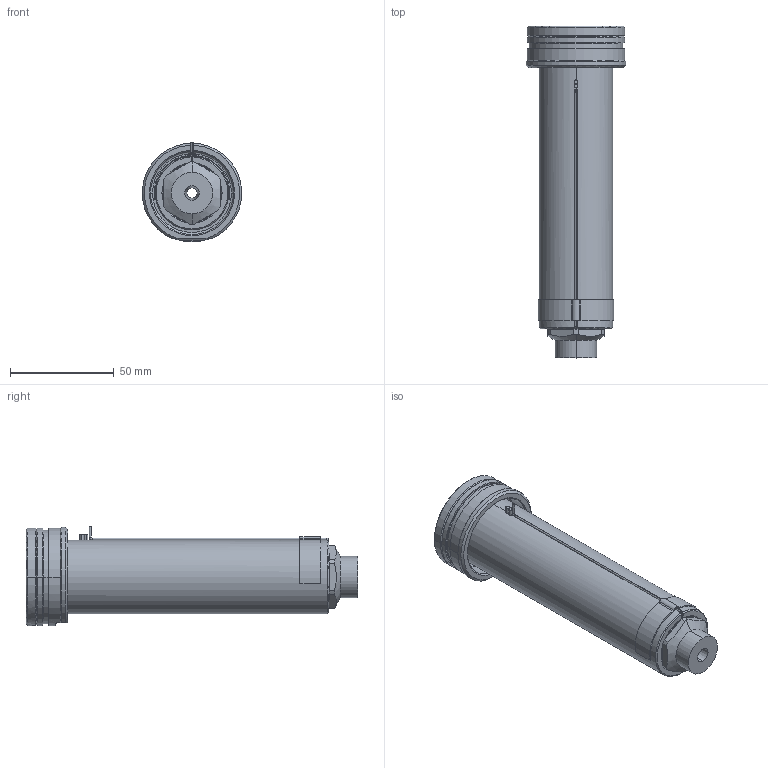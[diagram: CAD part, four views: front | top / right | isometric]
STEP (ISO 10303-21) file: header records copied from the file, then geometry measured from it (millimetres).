
FILE_DESCRIPTION((''),'2;1');
FILE_NAME('EO16_VG-ST_STD_140_SW','2024-02-19T12:55:38',('sundharh'),(''),'CREO PARAMETRIC BY PTC INC, 2023154','CREO PARAMETRIC BY PTC INC, 2023154','');
FILE_SCHEMA(('CONFIG_CONTROL_DESIGN'));
Length unit declared in the file: millimetre
Products named in the file (1): EO16_VG-ST_STD_140_SW
Bounding box: 47.97 x 160 x 48 mm (x, y, z)
Volume: 133112.8 mm3; surface area: 33189.1 mm2
Topology: 1 solids, 1 shells, 169 faces, 418 edges, 256 vertices
Faces by surface type: cylinder 64, plane 45, cone 35, torus 14, bspline 9, sphere 2
Entity records: 5813 total; most frequent: CARTESIAN_POINT 1727, DIRECTION 906, ORIENTED_EDGE 824, EDGE_CURVE 412, AXIS2_PLACEMENT_3D 374, VERTEX_POINT 256, CIRCLE 214, EDGE_LOOP 184
